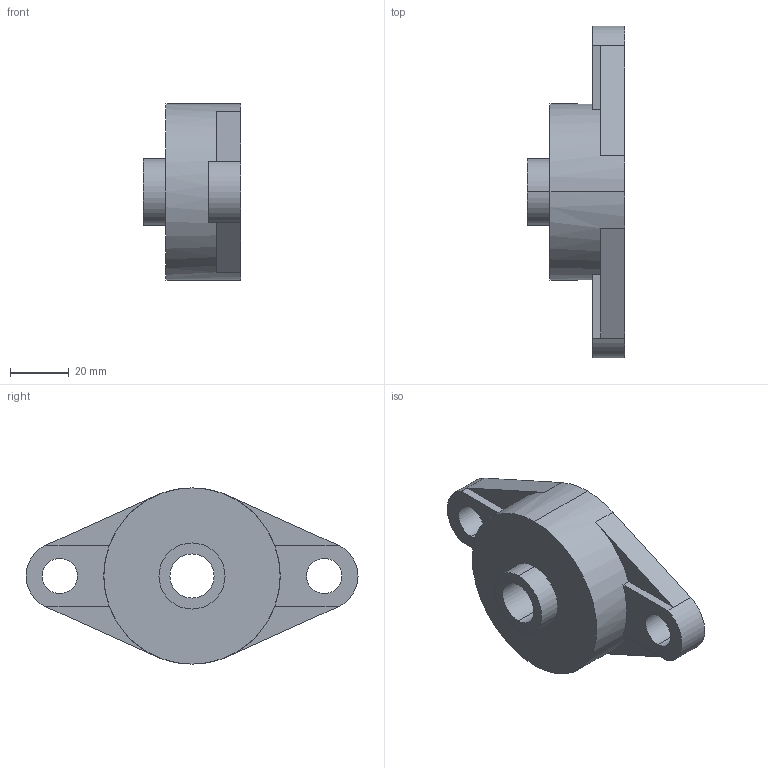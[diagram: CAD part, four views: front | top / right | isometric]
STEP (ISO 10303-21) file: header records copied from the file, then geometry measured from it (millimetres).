
FILE_DESCRIPTION (( 'STEP AP203' ), '1' );
FILE_NAME ('UCFL 202.STEP', '2013-09-20T08:13:41', ( '' ), ( '' ), 'SwSTEP 2.0', 'SolidWorks 2010', '' );
FILE_SCHEMA (( 'CONFIG_CONTROL_DESIGN' ));
Length unit declared in the file: millimetre
Products named in the file (1): UCFL 202
Bounding box: 33.3 x 113 x 60 mm (x, y, z)
Volume: 83294.4 mm3; surface area: 16810.9 mm2
Topology: 1 solids, 1 shells, 29 faces, 78 edges, 52 vertices
Faces by surface type: plane 14, cylinder 12, bspline 3
Entity records: 1103 total; most frequent: CARTESIAN_POINT 265, DIRECTION 162, ORIENTED_EDGE 156, EDGE_CURVE 78, AXIS2_PLACEMENT_3D 61, VERTEX_POINT 52, LINE 40, VECTOR 40
